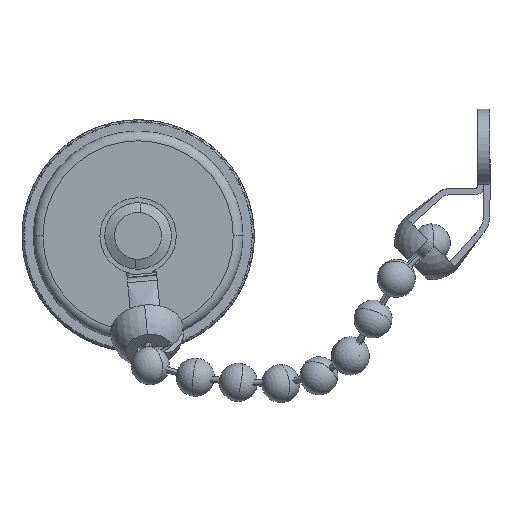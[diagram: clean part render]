
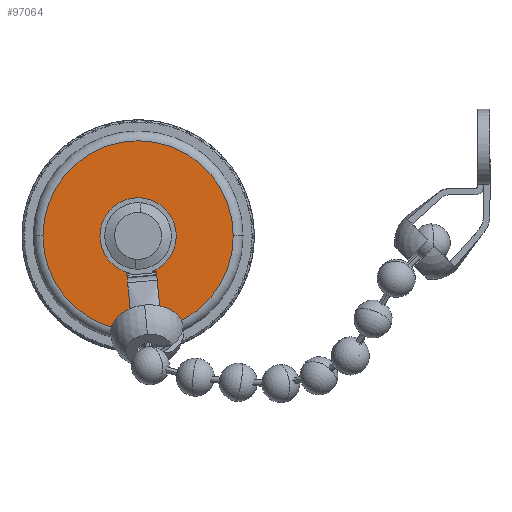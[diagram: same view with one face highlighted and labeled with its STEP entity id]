
A CAD part, top view. The second image highlights one B-rep face of the part: STEP entity #97064.
In plain terms, the highlighted planar face has unit normal (0, 0, 1).
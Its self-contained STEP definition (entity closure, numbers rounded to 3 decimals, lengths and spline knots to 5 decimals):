
#829 = VERTEX_POINT ( 'NONE', #95723 ) ;
#3227 = FACE_BOUND ( 'NONE', #40349, .T. ) ;
#5166 = EDGE_LOOP ( 'NONE', ( #110972, #58250 ) ) ;
#18810 = DIRECTION ( 'NONE',  ( 1., 0., 0. ) ) ;
#21197 = CARTESIAN_POINT ( 'NONE',  ( 0.3115, 0., 0. ) ) ;
#21697 = EDGE_CURVE ( 'NONE', #75144, #829, #78350, .T. ) ;
#26270 = AXIS2_PLACEMENT_3D ( 'NONE', #67822, #105892, #45560 ) ;
#30943 = EDGE_CURVE ( 'NONE', #60477, #41232, #113316, .T. ) ;
#32584 = CARTESIAN_POINT ( 'NONE',  ( 0., 0.0475, 0. ) ) ;
#34582 = CIRCLE ( 'NONE', #74455, 0.0475 ) ;
#40349 = EDGE_LOOP ( 'NONE', ( #80879, #82381 ) ) ;
#41232 = VERTEX_POINT ( 'NONE', #65287 ) ;
#45560 = DIRECTION ( 'NONE',  ( -1., 0., 0. ) ) ;
#56148 = CIRCLE ( 'NONE', #26270, 0.3115 ) ;
#58250 = ORIENTED_EDGE ( 'NONE', *, *, #30943, .T. ) ;
#60477 = VERTEX_POINT ( 'NONE', #21197 ) ;
#65287 = CARTESIAN_POINT ( 'NONE',  ( -0.3115, 0., 0. ) ) ;
#67510 = DIRECTION ( 'NONE',  ( 0., 0., 1. ) ) ;
#67822 = CARTESIAN_POINT ( 'NONE',  ( 0., 0., 0. ) ) ;
#69205 = EDGE_CURVE ( 'NONE', #41232, #60477, #56148, .T. ) ;
#71738 = DIRECTION ( 'NONE',  ( 1., 0., 0. ) ) ;
#74455 = AXIS2_PLACEMENT_3D ( 'NONE', #89260, #80505, #71738 ) ;
#75144 = VERTEX_POINT ( 'NONE', #78723 ) ;
#76865 = CARTESIAN_POINT ( 'NONE',  ( 0., 0., 0. ) ) ;
#77461 = AXIS2_PLACEMENT_3D ( 'NONE', #78771, #116857, #99968 ) ;
#78350 = CIRCLE ( 'NONE', #122255, 0.0475 ) ;
#78723 = CARTESIAN_POINT ( 'NONE',  ( -0.0475, 0., 0. ) ) ;
#78771 = CARTESIAN_POINT ( 'NONE',  ( 0., 0., 0. ) ) ;
#80505 = DIRECTION ( 'NONE',  ( 0., 0., 1. ) ) ;
#80879 = ORIENTED_EDGE ( 'NONE', *, *, #108916, .F. ) ;
#82381 = ORIENTED_EDGE ( 'NONE', *, *, #21697, .F. ) ;
#88188 = PLANE ( 'NONE',  #103255 ) ;
#89260 = CARTESIAN_POINT ( 'NONE',  ( 0., 0., 0. ) ) ;
#90044 = DIRECTION ( 'NONE',  ( 0., 0., -1. ) ) ;
#95723 = CARTESIAN_POINT ( 'NONE',  ( 0.0475, 0., 0. ) ) ;
#97064 = ADVANCED_FACE ( 'NONE', ( #97536, #3227 ), #88188, .F. ) ;
#97536 = FACE_OUTER_BOUND ( 'NONE', #5166, .T. ) ;
#98155 = DIRECTION ( 'NONE',  ( -1., 0., 0. ) ) ;
#99968 = DIRECTION ( 'NONE',  ( -1., 0., 0. ) ) ;
#103255 = AXIS2_PLACEMENT_3D ( 'NONE', #32584, #90044, #98155 ) ;
#105892 = DIRECTION ( 'NONE',  ( 0., 0., 1. ) ) ;
#108916 = EDGE_CURVE ( 'NONE', #829, #75144, #34582, .T. ) ;
#110972 = ORIENTED_EDGE ( 'NONE', *, *, #69205, .T. ) ;
#113316 = CIRCLE ( 'NONE', #77461, 0.3115 ) ;
#116857 = DIRECTION ( 'NONE',  ( 0., 0., 1. ) ) ;
#122255 = AXIS2_PLACEMENT_3D ( 'NONE', #76865, #67510, #18810 ) ;
